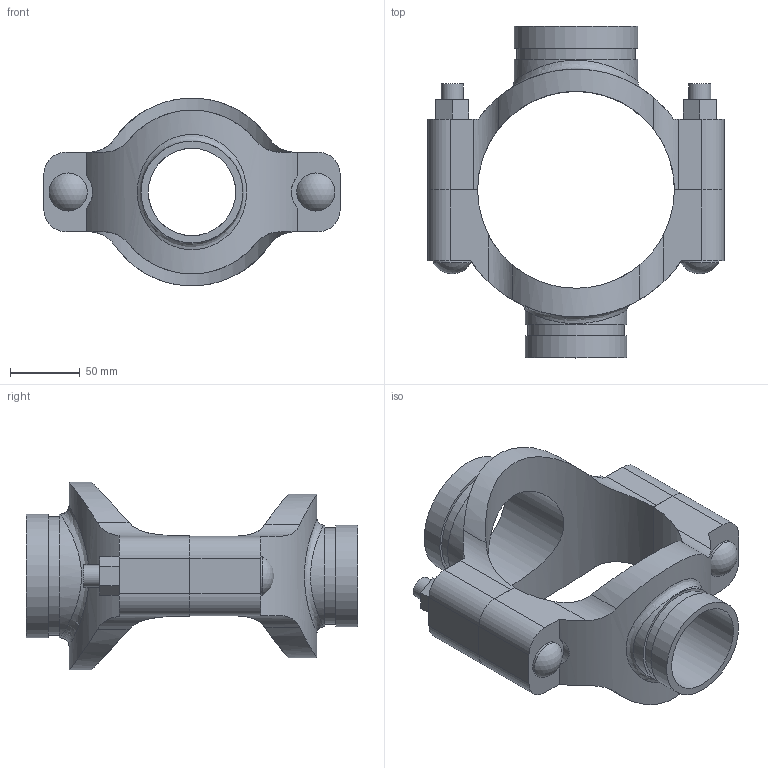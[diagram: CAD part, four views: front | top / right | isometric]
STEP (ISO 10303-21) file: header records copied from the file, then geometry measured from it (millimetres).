
FILE_DESCRIPTION(/* description */ ('VIC MECH-T BRANCH OUTLET CROSS STYLE 920N (GRVD)','CAx-IF Rec.Pracs.---Representation and Presentation of Product Manufacturing Information (PMI)---4.0---2014-10-13'),/* implementation_level */ '2;1');
FILE_NAME(/* name */ 'C:\Users\Vjadhav\AppData\Roaming\Autodesk\ApplicationPlugins\Back Up\Victaulic_IPS_Mechanical-Cross Outlet_Style 920N (OGS)\Victaulic_IPS_Mechanical-Cross Outlet_05.0x03.0x02.5 (125x80x65).stp',/* time_stamp */ '2020-08-06T19:44:31+05:00',/* author */ ('Vjadhav'),/* organization */ ('Victaulic'),/* preprocessor_version */ 'ST-DEVELOPER v17.2',/* originating_system */ 'Autodesk Inventor 2019',/* authorisation */ '');
FILE_SCHEMA (('AP242_MANAGED_MODEL_BASED_3D_ENGINEERING_MIM_LF { 1 0 10303 442 1 1 4 }'));
Length unit declared in the file: inch
Products named in the file (3): 920NG-05.0x03.0x02.5; 920G-05.0x03.0; 920G-05.0x02.5
Assembly tree (2 placements, depth 2):
  920NG-05.0x03.0x02.5
    920G-05.0x03.0
    920G-05.0x02.5
Bounding box: 212.85 x 238.25 x 134.7 mm (x, y, z)
Volume: 922176 mm3; surface area: 176882 mm2
Topology: 2 solids, 2 shells, 106 faces, 268 edges, 182 vertices
Faces by surface type: plane 54, cylinder 48, sphere 2, bspline 2
Full cylindrical faces by diameter (mm): 15.875 x4, 27.381 x2, 62.738 x1, 69.088 x1, 73.025 x2, 77.787 x1, 84.938 x1, 88.9 x2
Entity records: 4290 total; most frequent: CARTESIAN_POINT 1463, DIRECTION 542, ORIENTED_EDGE 536, EDGE_CURVE 268, AXIS2_PLACEMENT_3D 197, VERTEX_POINT 182, LINE 148, VECTOR 148
